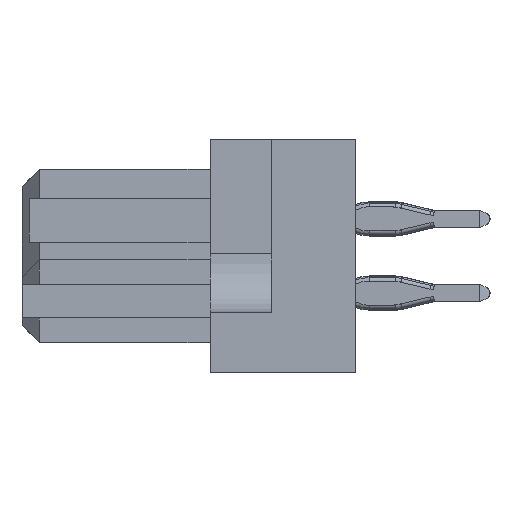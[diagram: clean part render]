
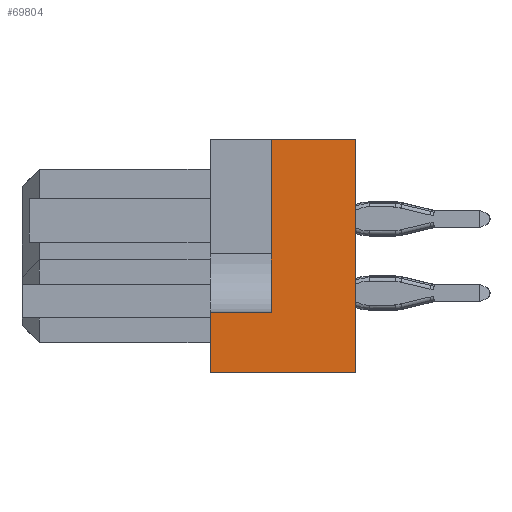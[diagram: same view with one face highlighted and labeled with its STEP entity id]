
A CAD part, left-side view. The second image highlights one B-rep face of the part: STEP entity #69804.
In plain terms, the highlighted planar face has unit normal (-1, 0, 0).
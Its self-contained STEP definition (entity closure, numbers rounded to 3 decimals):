
#61 = CARTESIAN_POINT ( 'NONE',  ( -19.55, 5., -4. ) ) ;
#62 = DIRECTION ( 'NONE',  ( 0., -1., 0. ) ) ;
#171 = CARTESIAN_POINT ( 'NONE',  ( -19.55, 5., 4. ) ) ;
#172 = DIRECTION ( 'NONE',  ( 0., -1., 0. ) ) ;
#308 = CARTESIAN_POINT ( 'NONE',  ( -19.55, 0., -4. ) ) ;
#312 = DIRECTION ( 'NONE',  ( 0., 0., 1. ) ) ;
#586 = CARTESIAN_POINT ( 'NONE',  ( -19.55, 5., -4. ) ) ;
#592 = DIRECTION ( 'NONE',  ( 0., 0., 1. ) ) ;
#31517 = VERTEX_POINT ( 'NONE', #130518 ) ;
#31582 = VERTEX_POINT ( 'NONE', #130573 ) ;
#31588 = VERTEX_POINT ( 'NONE', #130580 ) ;
#31688 = VERTEX_POINT ( 'NONE', #130671 ) ;
#38092 = EDGE_CURVE ( 'NONE', #31582, #31588, #127820, .T. ) ;
#38185 = EDGE_CURVE ( 'NONE', #31688, #31517, #127930, .T. ) ;
#38302 = EDGE_CURVE ( 'NONE', #31588, #31517, #128060, .T. ) ;
#38537 = EDGE_CURVE ( 'NONE', #31582, #68112, #128338, .T. ) ;
#42794 = LINE ( 'NONE', #46627, #42795 ) ;
#42795 = VECTOR ( 'NONE', #46629, 1000. ) ;
#42796 = LINE ( 'NONE', #46632, #42797 ) ;
#42797 = VECTOR ( 'NONE', #46634, 1000. ) ;
#46627 = CARTESIAN_POINT ( 'NONE',  ( -19.55, -7.782, -1.93 ) ) ;
#46629 = DIRECTION ( 'NONE',  ( 0., 1., 0. ) ) ;
#46632 = CARTESIAN_POINT ( 'NONE',  ( -19.55, 2.9, -1.93 ) ) ;
#46634 = DIRECTION ( 'NONE',  ( 0., 0., -1. ) ) ;
#52473 = CARTESIAN_POINT ( 'NONE',  ( -19.55, 2.9, -1.93 ) ) ;
#52490 = CARTESIAN_POINT ( 'NONE',  ( -19.55, 5., -1.93 ) ) ;
#60910 = AXIS2_PLACEMENT_3D ( 'NONE', #64558, #64616, #64619 ) ;
#63087 = FACE_OUTER_BOUND ( 'NONE', #89979, .T. ) ;
#63906 = EDGE_CURVE ( 'NONE', #68020, #68112, #42794, .T. ) ;
#63908 = EDGE_CURVE ( 'NONE', #31688, #68020, #42796, .T. ) ;
#64558 = CARTESIAN_POINT ( 'NONE',  ( -19.55, 5., -4. ) ) ;
#64584 = PLANE ( 'NONE',  #60910 ) ;
#64616 = DIRECTION ( 'NONE',  ( 1., 0., 0. ) ) ;
#64619 = DIRECTION ( 'NONE',  ( 0., 0., -1. ) ) ;
#68020 = VERTEX_POINT ( 'NONE', #52473 ) ;
#68112 = VERTEX_POINT ( 'NONE', #52490 ) ;
#69804 = ADVANCED_FACE ( 'NONE', ( #63087 ), #64584, .F. ) ;
#89979 = EDGE_LOOP ( 'NONE', ( #120709, #120708, #120704, #120702, #120696, #120694 ) ) ;
#120694 = ORIENTED_EDGE ( 'NONE', *, *, #38185, .F. ) ;
#120696 = ORIENTED_EDGE ( 'NONE', *, *, #38302, .T. ) ;
#120702 = ORIENTED_EDGE ( 'NONE', *, *, #38092, .T. ) ;
#120704 = ORIENTED_EDGE ( 'NONE', *, *, #38537, .F. ) ;
#120708 = ORIENTED_EDGE ( 'NONE', *, *, #63906, .T. ) ;
#120709 = ORIENTED_EDGE ( 'NONE', *, *, #63908, .T. ) ;
#127820 = LINE ( 'NONE', #61, #127821 ) ;
#127821 = VECTOR ( 'NONE', #62, 1000. ) ;
#127930 = LINE ( 'NONE', #171, #127931 ) ;
#127931 = VECTOR ( 'NONE', #172, 1000. ) ;
#128060 = LINE ( 'NONE', #308, #128067 ) ;
#128067 = VECTOR ( 'NONE', #312, 1000. ) ;
#128335 = VECTOR ( 'NONE', #592, 1000. ) ;
#128338 = LINE ( 'NONE', #586, #128335 ) ;
#130518 = CARTESIAN_POINT ( 'NONE',  ( -19.55, 0., 4. ) ) ;
#130573 = CARTESIAN_POINT ( 'NONE',  ( -19.55, 5., -4. ) ) ;
#130580 = CARTESIAN_POINT ( 'NONE',  ( -19.55, 0., -4. ) ) ;
#130671 = CARTESIAN_POINT ( 'NONE',  ( -19.55, 2.9, 4. ) ) ;
